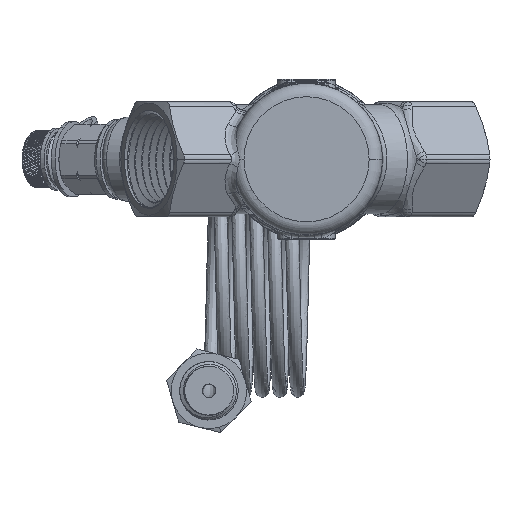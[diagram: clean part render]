
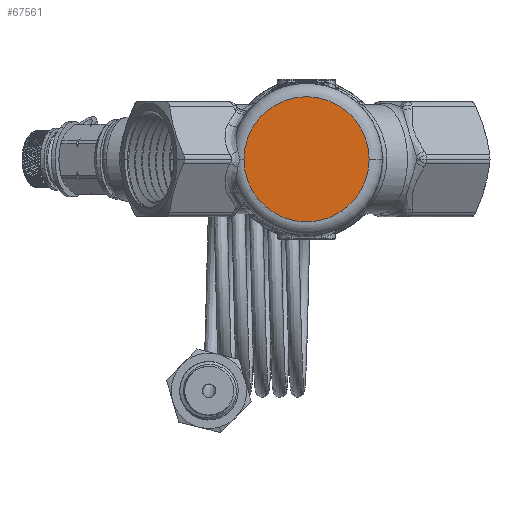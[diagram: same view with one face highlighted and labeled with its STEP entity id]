
A CAD part, front view. The second image highlights one B-rep face of the part: STEP entity #67561.
In plain terms, the highlighted planar face has unit normal (0, -1, 0).
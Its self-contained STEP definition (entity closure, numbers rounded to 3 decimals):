
#6012 = DIRECTION ( 'NONE',  ( 0., 1., 0. ) ) ;
#29155 = AXIS2_PLACEMENT_3D ( 'NONE', #117898, #234836, #351807 ) ;
#34769 = FACE_OUTER_BOUND ( 'NONE', #301007, .T. ) ;
#40406 = DIRECTION ( 'NONE',  ( 1., 0., 0. ) ) ;
#59600 = EDGE_CURVE ( 'NONE', #79194, #97692, #145800, .T. ) ;
#63543 = PLANE ( 'NONE',  #188477 ) ;
#67561 = ADVANCED_FACE ( 'NONE', ( #34769 ), #63543, .F. ) ;
#79194 = VERTEX_POINT ( 'NONE', #318437 ) ;
#84250 = CIRCLE ( 'NONE', #304933, 14.1 ) ;
#96121 = CARTESIAN_POINT ( 'NONE',  ( -2.5, -57.3, 0. ) ) ;
#97692 = VERTEX_POINT ( 'NONE', #302837 ) ;
#103036 = CARTESIAN_POINT ( 'NONE',  ( -2.5, -57.3, 0. ) ) ;
#117898 = CARTESIAN_POINT ( 'NONE',  ( -2.5, -57.3, 0. ) ) ;
#119720 = EDGE_CURVE ( 'NONE', #97692, #79194, #84250, .T. ) ;
#145800 = CIRCLE ( 'NONE', #29155, 14.1 ) ;
#188477 = AXIS2_PLACEMENT_3D ( 'NONE', #96121, #6012, #40406 ) ;
#191217 = DIRECTION ( 'NONE',  ( 0., -1., 0. ) ) ;
#234836 = DIRECTION ( 'NONE',  ( 0., -1., 0. ) ) ;
#301007 = EDGE_LOOP ( 'NONE', ( #351610, #344467 ) ) ;
#302837 = CARTESIAN_POINT ( 'NONE',  ( -16.6, -57.3, 0. ) ) ;
#304933 = AXIS2_PLACEMENT_3D ( 'NONE', #103036, #191217, #367587 ) ;
#318437 = CARTESIAN_POINT ( 'NONE',  ( 11.6, -57.3, 0. ) ) ;
#344467 = ORIENTED_EDGE ( 'NONE', *, *, #59600, .T. ) ;
#351610 = ORIENTED_EDGE ( 'NONE', *, *, #119720, .T. ) ;
#351807 = DIRECTION ( 'NONE',  ( -1., 0., 0. ) ) ;
#367587 = DIRECTION ( 'NONE',  ( -1., 0., 0. ) ) ;
